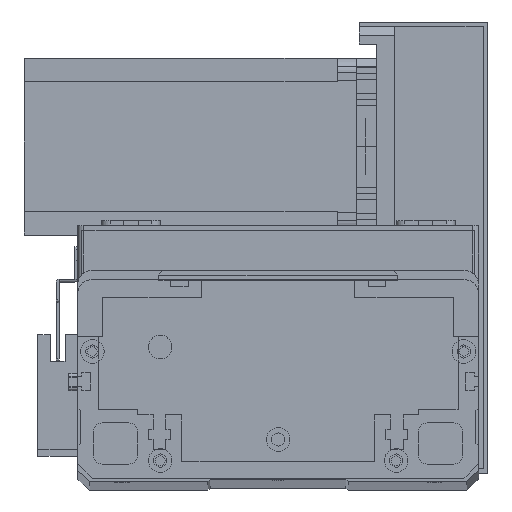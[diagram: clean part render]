
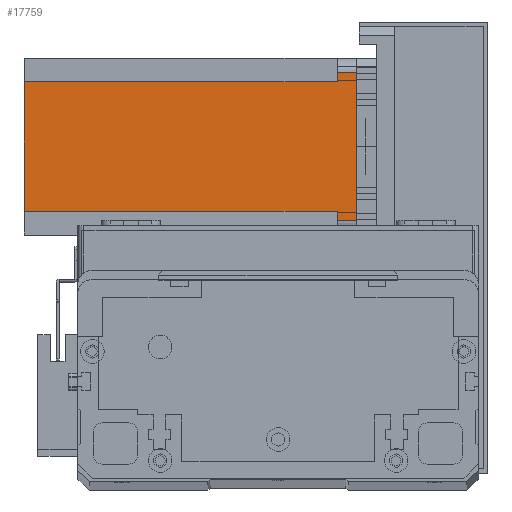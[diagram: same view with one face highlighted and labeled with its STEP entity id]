
A CAD part, top view. The second image highlights one B-rep face of the part: STEP entity #17759.
In plain terms, the highlighted planar face has unit normal (0, 0, 1) as drawn and (0, 1, 0) by its records, which use the part's own axes.
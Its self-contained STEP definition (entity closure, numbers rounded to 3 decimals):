
#419 = VERTEX_POINT ( 'NONE', #21794 ) ;
#1331 = VECTOR ( 'NONE', #27213, 1000. ) ;
#1483 = LINE ( 'NONE', #28434, #7221 ) ;
#1858 = CARTESIAN_POINT ( 'NONE',  ( 52., 60., -112.5 ) ) ;
#1924 = LINE ( 'NONE', #3541, #14458 ) ;
#2597 = ORIENTED_EDGE ( 'NONE', *, *, #21088, .F. ) ;
#2906 = LINE ( 'NONE', #11205, #16077 ) ;
#3035 = VECTOR ( 'NONE', #5964, 1000. ) ;
#3059 = DIRECTION ( 'NONE',  ( -1., 0., 0. ) ) ;
#3375 = VERTEX_POINT ( 'NONE', #20356 ) ;
#3541 = CARTESIAN_POINT ( 'NONE',  ( 55., 60., -112.5 ) ) ;
#4144 = DIRECTION ( 'NONE',  ( -1., 0., 0. ) ) ;
#4411 = DIRECTION ( 'NONE',  ( 0., 0., 1. ) ) ;
#5053 = ORIENTED_EDGE ( 'NONE', *, *, #22414, .F. ) ;
#5964 = DIRECTION ( 'NONE',  ( 0., 0., 1. ) ) ;
#6858 = VECTOR ( 'NONE', #23300, 1000. ) ;
#6968 = CARTESIAN_POINT ( 'NONE',  ( 8., 60., -112.5 ) ) ;
#6999 = VERTEX_POINT ( 'NONE', #19692 ) ;
#7221 = VECTOR ( 'NONE', #3059, 1000. ) ;
#8486 = VERTEX_POINT ( 'NONE', #19027 ) ;
#8674 = CARTESIAN_POINT ( 'NONE',  ( 8., 60., -112.5 ) ) ;
#9316 = DIRECTION ( 'NONE',  ( 0., 0., -1. ) ) ;
#9771 = CARTESIAN_POINT ( 'NONE',  ( 5., 60., 0. ) ) ;
#10112 = VERTEX_POINT ( 'NONE', #8674 ) ;
#10415 = VECTOR ( 'NONE', #4144, 1000. ) ;
#11205 = CARTESIAN_POINT ( 'NONE',  ( 0., 60., 0. ) ) ;
#11469 = ORIENTED_EDGE ( 'NONE', *, *, #24685, .T. ) ;
#13719 = CARTESIAN_POINT ( 'NONE',  ( 0., 60., -112.5 ) ) ;
#13883 = LINE ( 'NONE', #24948, #1331 ) ;
#14383 = VECTOR ( 'NONE', #9316, 1000. ) ;
#14458 = VECTOR ( 'NONE', #17494, 1000. ) ;
#14611 = VERTEX_POINT ( 'NONE', #9771 ) ;
#16077 = VECTOR ( 'NONE', #26984, 1000. ) ;
#16312 = ORIENTED_EDGE ( 'NONE', *, *, #25789, .T. ) ;
#16582 = ORIENTED_EDGE ( 'NONE', *, *, #29235, .F. ) ;
#16688 = FACE_OUTER_BOUND ( 'NONE', #22262, .T. ) ;
#17004 = ORIENTED_EDGE ( 'NONE', *, *, #23905, .F. ) ;
#17494 = DIRECTION ( 'NONE',  ( 0., 0., -1. ) ) ;
#17759 = ADVANCED_FACE ( 'NONE', ( #16688 ), #24959, .T. ) ;
#18035 = CARTESIAN_POINT ( 'NONE',  ( 8., 60., -6.5 ) ) ;
#18286 = DIRECTION ( 'NONE',  ( 0., 1., 0. ) ) ;
#18689 = CARTESIAN_POINT ( 'NONE',  ( 52., 60., -6.5 ) ) ;
#18985 = LINE ( 'NONE', #18689, #6858 ) ;
#19027 = CARTESIAN_POINT ( 'NONE',  ( 5., 60., -6.5 ) ) ;
#19122 = ORIENTED_EDGE ( 'NONE', *, *, #19940, .T. ) ;
#19358 = CARTESIAN_POINT ( 'NONE',  ( 55., 60., 0. ) ) ;
#19692 = CARTESIAN_POINT ( 'NONE',  ( 55., 60., -6.5 ) ) ;
#19940 = EDGE_CURVE ( 'NONE', #28324, #6999, #1924, .T. ) ;
#20356 = CARTESIAN_POINT ( 'NONE',  ( 8., 60., -6.5 ) ) ;
#21088 = EDGE_CURVE ( 'NONE', #419, #6999, #18985, .T. ) ;
#21794 = CARTESIAN_POINT ( 'NONE',  ( 52., 60., -6.5 ) ) ;
#22262 = EDGE_LOOP ( 'NONE', ( #16582, #19122, #2597, #5053, #27647, #17004, #11469, #16312 ) ) ;
#22414 = EDGE_CURVE ( 'NONE', #26858, #419, #27455, .T. ) ;
#22955 = EDGE_CURVE ( 'NONE', #26858, #10112, #1483, .T. ) ;
#23300 = DIRECTION ( 'NONE',  ( 1., 0., 0. ) ) ;
#23905 = EDGE_CURVE ( 'NONE', #3375, #10112, #26358, .T. ) ;
#24685 = EDGE_CURVE ( 'NONE', #3375, #8486, #27714, .T. ) ;
#24948 = CARTESIAN_POINT ( 'NONE',  ( 5., 60., -112.5 ) ) ;
#24959 = PLANE ( 'NONE',  #26728 ) ;
#25789 = EDGE_CURVE ( 'NONE', #8486, #14611, #13883, .T. ) ;
#26358 = LINE ( 'NONE', #6968, #14383 ) ;
#26488 = CARTESIAN_POINT ( 'NONE',  ( 52., 60., -112.5 ) ) ;
#26728 = AXIS2_PLACEMENT_3D ( 'NONE', #13719, #18286, #4411 ) ;
#26858 = VERTEX_POINT ( 'NONE', #1858 ) ;
#26984 = DIRECTION ( 'NONE',  ( -1., 0., 0. ) ) ;
#27213 = DIRECTION ( 'NONE',  ( 0., 0., 1. ) ) ;
#27455 = LINE ( 'NONE', #26488, #3035 ) ;
#27647 = ORIENTED_EDGE ( 'NONE', *, *, #22955, .T. ) ;
#27714 = LINE ( 'NONE', #18035, #10415 ) ;
#28324 = VERTEX_POINT ( 'NONE', #19358 ) ;
#28434 = CARTESIAN_POINT ( 'NONE',  ( 0., 60., -112.5 ) ) ;
#29235 = EDGE_CURVE ( 'NONE', #28324, #14611, #2906, .T. ) ;
